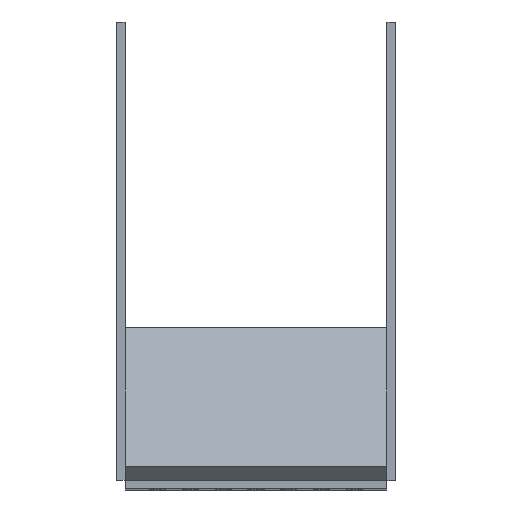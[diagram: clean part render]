
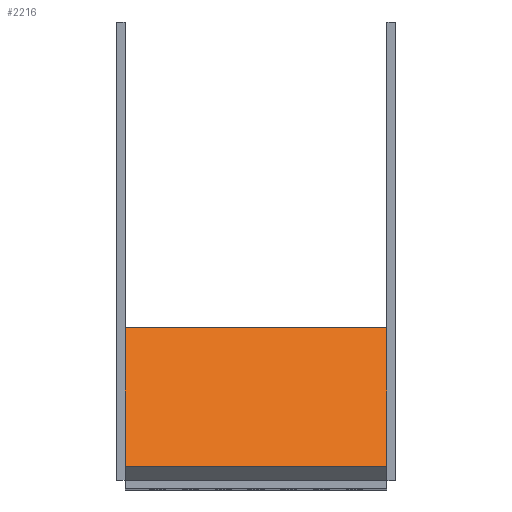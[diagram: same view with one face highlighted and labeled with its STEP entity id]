
A CAD part, top view. The second image highlights one B-rep face of the part: STEP entity #2216.
In plain terms, the highlighted planar face has unit normal (0, 0.709, 0.706) as drawn and (0, 0.669, 0.743) by its records, which use the part's own axes.
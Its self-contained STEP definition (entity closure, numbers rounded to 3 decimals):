
#55 = VECTOR ( 'NONE', #2117, 1000. ) ;
#56 = VERTEX_POINT ( 'NONE', #3408 ) ;
#103 = CARTESIAN_POINT ( 'NONE',  ( 0., 72.368, -27.78 ) ) ;
#194 = EDGE_CURVE ( 'NONE', #2355, #672, #346, .T. ) ;
#306 = PLANE ( 'NONE',  #1164 ) ;
#346 = LINE ( 'NONE', #1009, #2623 ) ;
#404 = CARTESIAN_POINT ( 'NONE',  ( -80., 72.368, -27.78 ) ) ;
#407 = CARTESIAN_POINT ( 'NONE',  ( -80., 27.78, 12.368 ) ) ;
#551 = EDGE_LOOP ( 'NONE', ( #2313, #1701, #3257, #898 ) ) ;
#672 = VERTEX_POINT ( 'NONE', #1557 ) ;
#879 = EDGE_CURVE ( 'NONE', #1058, #2355, #1020, .T. ) ;
#898 = ORIENTED_EDGE ( 'NONE', *, *, #194, .T. ) ;
#910 = LINE ( 'NONE', #103, #1815 ) ;
#939 = DIRECTION ( 'NONE',  ( -1., 0., 0. ) ) ;
#1009 = CARTESIAN_POINT ( 'NONE',  ( -80., 27.78, 12.368 ) ) ;
#1020 = LINE ( 'NONE', #404, #2200 ) ;
#1058 = VERTEX_POINT ( 'NONE', #2587 ) ;
#1164 = AXIS2_PLACEMENT_3D ( 'NONE', #3066, #3358, #939 ) ;
#1557 = CARTESIAN_POINT ( 'NONE',  ( 0., 27.78, 12.368 ) ) ;
#1562 = CARTESIAN_POINT ( 'NONE',  ( -80., 72.368, -27.78 ) ) ;
#1701 = ORIENTED_EDGE ( 'NONE', *, *, #2284, .F. ) ;
#1815 = VECTOR ( 'NONE', #2219, 1000. ) ;
#2117 = DIRECTION ( 'NONE',  ( 1., 0., 0. ) ) ;
#2200 = VECTOR ( 'NONE', #2796, 1000. ) ;
#2216 = ADVANCED_FACE ( 'NONE', ( #3715 ), #306, .T. ) ;
#2219 = DIRECTION ( 'NONE',  ( 0., -0.743, 0.669 ) ) ;
#2284 = EDGE_CURVE ( 'NONE', #1058, #56, #2760, .T. ) ;
#2313 = ORIENTED_EDGE ( 'NONE', *, *, #2933, .F. ) ;
#2355 = VERTEX_POINT ( 'NONE', #407 ) ;
#2587 = CARTESIAN_POINT ( 'NONE',  ( -80., 72.368, -27.78 ) ) ;
#2623 = VECTOR ( 'NONE', #3736, 1000. ) ;
#2760 = LINE ( 'NONE', #1562, #55 ) ;
#2796 = DIRECTION ( 'NONE',  ( 0., -0.743, 0.669 ) ) ;
#2933 = EDGE_CURVE ( 'NONE', #56, #672, #910, .T. ) ;
#3066 = CARTESIAN_POINT ( 'NONE',  ( -80., 72.368, -27.78 ) ) ;
#3257 = ORIENTED_EDGE ( 'NONE', *, *, #879, .T. ) ;
#3358 = DIRECTION ( 'NONE',  ( 0., 0.669, 0.743 ) ) ;
#3408 = CARTESIAN_POINT ( 'NONE',  ( 0., 72.368, -27.78 ) ) ;
#3715 = FACE_OUTER_BOUND ( 'NONE', #551, .T. ) ;
#3736 = DIRECTION ( 'NONE',  ( 1., 0., 0. ) ) ;
